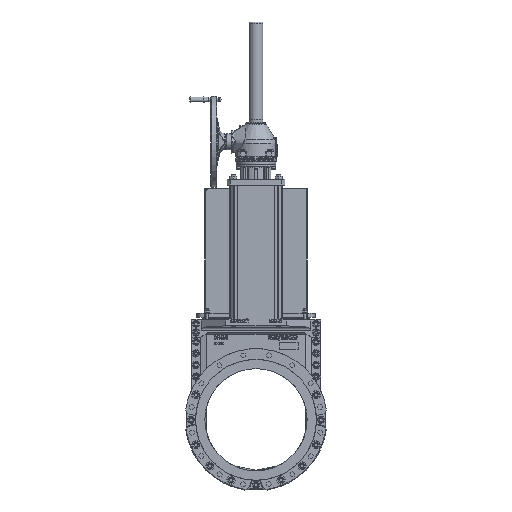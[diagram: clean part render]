
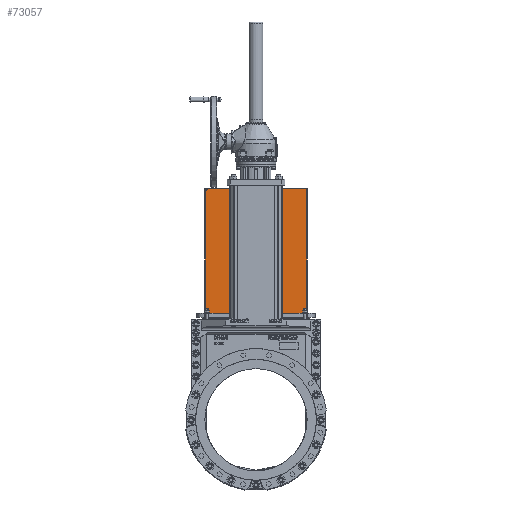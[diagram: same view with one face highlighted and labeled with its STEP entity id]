
A CAD part, left-side view. The second image highlights one B-rep face of the part: STEP entity #73057.
In plain terms, the highlighted planar face has unit normal (-1, 0, 0).
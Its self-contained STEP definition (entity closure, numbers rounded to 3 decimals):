
#4184=FACE_BOUND('',#12527,.T.);
#4185=FACE_BOUND('',#12528,.T.);
#5270=PLANE('',#78185);
#8231=FACE_OUTER_BOUND('',#12526,.T.);
#12526=EDGE_LOOP('',(#54594,#54595,#54596,#54597,#54598,#54599));
#12527=EDGE_LOOP('',(#54600,#54601,#54602,#54603,#54604,#54605,#54606,#54607,
#54608,#54609));
#12528=EDGE_LOOP('',(#54610));
#17314=LINE('',#217858,#22757);
#17318=LINE('',#217866,#22761);
#17322=LINE('',#217874,#22765);
#17326=LINE('',#217882,#22769);
#17329=LINE('',#217895,#22772);
#17332=LINE('',#217900,#22775);
#17335=LINE('',#217912,#22778);
#17336=LINE('',#217914,#22779);
#17337=LINE('',#217916,#22780);
#17338=LINE('',#217918,#22781);
#17339=LINE('',#217920,#22782);
#17340=LINE('',#217921,#22783);
#22757=VECTOR('',#88682,10.);
#22761=VECTOR('',#88688,10.);
#22765=VECTOR('',#88692,10.);
#22769=VECTOR('',#88696,10.);
#22772=VECTOR('',#88713,10.);
#22775=VECTOR('',#88718,10.);
#22778=VECTOR('',#88731,10.);
#22779=VECTOR('',#88732,10.);
#22780=VECTOR('',#88733,10.);
#22781=VECTOR('',#88734,10.);
#22782=VECTOR('',#88735,10.);
#22783=VECTOR('',#88736,10.);
#27692=CIRCLE('',#78183,14.5);
#27693=CIRCLE('',#78184,14.5);
#27694=CIRCLE('',#78186,14.5);
#27695=CIRCLE('',#78187,14.5);
#27696=CIRCLE('',#78188,4.5);
#31855=VERTEX_POINT('',#217856);
#31856=VERTEX_POINT('',#217857);
#31859=VERTEX_POINT('',#217865);
#31862=VERTEX_POINT('',#217871);
#31863=VERTEX_POINT('',#217873);
#31866=VERTEX_POINT('',#217879);
#31867=VERTEX_POINT('',#217881);
#31870=VERTEX_POINT('',#217894);
#31873=VERTEX_POINT('',#217905);
#31874=VERTEX_POINT('',#217910);
#31875=VERTEX_POINT('',#217911);
#31876=VERTEX_POINT('',#217913);
#31877=VERTEX_POINT('',#217915);
#31878=VERTEX_POINT('',#217917);
#31879=VERTEX_POINT('',#217919);
#31880=VERTEX_POINT('',#217922);
#31881=VERTEX_POINT('',#217925);
#40231=EDGE_CURVE('',#31855,#31856,#17314,.T.);
#40235=EDGE_CURVE('',#31859,#31855,#17318,.T.);
#40239=EDGE_CURVE('',#31863,#31862,#17322,.T.);
#40243=EDGE_CURVE('',#31867,#31866,#17326,.T.);
#40249=EDGE_CURVE('',#31856,#31870,#17329,.T.);
#40252=EDGE_CURVE('',#31870,#31867,#17332,.T.);
#40256=EDGE_CURVE('',#31866,#31873,#27692,.T.);
#40257=EDGE_CURVE('',#31873,#31863,#27693,.T.);
#40258=EDGE_CURVE('',#31874,#31875,#17335,.T.);
#40259=EDGE_CURVE('',#31876,#31875,#17336,.T.);
#40260=EDGE_CURVE('',#31876,#31877,#17337,.T.);
#40261=EDGE_CURVE('',#31877,#31878,#17338,.T.);
#40262=EDGE_CURVE('',#31878,#31879,#17339,.T.);
#40263=EDGE_CURVE('',#31874,#31879,#17340,.T.);
#40264=EDGE_CURVE('',#31862,#31880,#27694,.T.);
#40265=EDGE_CURVE('',#31880,#31859,#27695,.T.);
#40266=EDGE_CURVE('',#31881,#31881,#27696,.T.);
#54594=ORIENTED_EDGE('',*,*,#40258,.T.);
#54595=ORIENTED_EDGE('',*,*,#40259,.F.);
#54596=ORIENTED_EDGE('',*,*,#40260,.T.);
#54597=ORIENTED_EDGE('',*,*,#40261,.T.);
#54598=ORIENTED_EDGE('',*,*,#40262,.T.);
#54599=ORIENTED_EDGE('',*,*,#40263,.F.);
#54600=ORIENTED_EDGE('',*,*,#40235,.T.);
#54601=ORIENTED_EDGE('',*,*,#40231,.T.);
#54602=ORIENTED_EDGE('',*,*,#40249,.T.);
#54603=ORIENTED_EDGE('',*,*,#40252,.T.);
#54604=ORIENTED_EDGE('',*,*,#40243,.T.);
#54605=ORIENTED_EDGE('',*,*,#40256,.T.);
#54606=ORIENTED_EDGE('',*,*,#40257,.T.);
#54607=ORIENTED_EDGE('',*,*,#40239,.T.);
#54608=ORIENTED_EDGE('',*,*,#40264,.T.);
#54609=ORIENTED_EDGE('',*,*,#40265,.T.);
#54610=ORIENTED_EDGE('',*,*,#40266,.T.);
#73057=ADVANCED_FACE('',(#8231,#4184,#4185),#5270,.F.);
#78183=AXIS2_PLACEMENT_3D('',#217907,#88725,#88726);
#78184=AXIS2_PLACEMENT_3D('',#217908,#88727,#88728);
#78185=AXIS2_PLACEMENT_3D('',#217909,#88729,#88730);
#78186=AXIS2_PLACEMENT_3D('',#217923,#88737,#88738);
#78187=AXIS2_PLACEMENT_3D('',#217924,#88739,#88740);
#78188=AXIS2_PLACEMENT_3D('',#217926,#88741,#88742);
#88682=DIRECTION('',(0.,0.,1.));
#88688=DIRECTION('',(0.,1.,0.));
#88692=DIRECTION('',(0.,1.,0.));
#88696=DIRECTION('',(0.,1.,0.));
#88713=DIRECTION('',(0.,-1.,0.));
#88718=DIRECTION('',(0.,0.,-1.));
#88725=DIRECTION('center_axis',(1.,0.,0.));
#88726=DIRECTION('ref_axis',(0.,-1.,0.));
#88727=DIRECTION('center_axis',(1.,0.,0.));
#88728=DIRECTION('ref_axis',(0.,-1.,0.));
#88729=DIRECTION('center_axis',(1.,0.,0.));
#88730=DIRECTION('ref_axis',(0.,1.,0.));
#88731=DIRECTION('',(0.,-1.,0.));
#88732=DIRECTION('',(0.,0.,-1.));
#88733=DIRECTION('',(0.,1.,0.));
#88734=DIRECTION('',(0.,1.,0.));
#88735=DIRECTION('',(0.,1.,0.));
#88736=DIRECTION('',(0.,0.,1.));
#88737=DIRECTION('center_axis',(1.,0.,0.));
#88738=DIRECTION('ref_axis',(0.,-1.,0.));
#88739=DIRECTION('center_axis',(1.,0.,0.));
#88740=DIRECTION('ref_axis',(0.,-1.,0.));
#88741=DIRECTION('center_axis',(1.,0.,0.));
#88742=DIRECTION('ref_axis',(0.,1.,0.));
#217856=CARTESIAN_POINT('',(-7.5,80.,946.5));
#217857=CARTESIAN_POINT('',(-7.5,80.,1015.5));
#217858=CARTESIAN_POINT('',(-7.5,80.,815.271));
#217865=CARTESIAN_POINT('',(-7.5,59.186,946.5));
#217866=CARTESIAN_POINT('',(-7.5,-40.,946.5));
#217871=CARTESIAN_POINT('',(-7.5,30.814,946.5));
#217873=CARTESIAN_POINT('',(-7.5,-30.814,946.5));
#217874=CARTESIAN_POINT('',(-7.5,-40.,946.5));
#217879=CARTESIAN_POINT('',(-7.5,-59.186,946.5));
#217881=CARTESIAN_POINT('',(-7.5,-80.,946.5));
#217882=CARTESIAN_POINT('',(-7.5,-40.,946.5));
#217894=CARTESIAN_POINT('',(-7.5,-80.,1015.5));
#217895=CARTESIAN_POINT('',(-7.5,40.,1015.5));
#217900=CARTESIAN_POINT('',(-7.5,-80.,849.771));
#217905=CARTESIAN_POINT('',(-7.5,-30.5,943.5));
#217907=CARTESIAN_POINT('Origin',(-7.5,-45.,943.5));
#217908=CARTESIAN_POINT('Origin',(-7.5,-45.,943.5));
#217909=CARTESIAN_POINT('Origin',(-7.5,0.,684.041));
#217910=CARTESIAN_POINT('',(-7.5,223.6,433.));
#217911=CARTESIAN_POINT('',(-7.5,-223.6,433.));
#217912=CARTESIAN_POINT('',(-7.5,0.,433.));
#217913=CARTESIAN_POINT('',(-7.5,-223.6,1018.5));
#217914=CARTESIAN_POINT('',(-7.5,-223.6,851.271));
#217915=CARTESIAN_POINT('',(-7.5,-18.5,1018.5));
#217916=CARTESIAN_POINT('',(-7.5,-227.5,1018.5));
#217917=CARTESIAN_POINT('',(-7.5,18.5,1018.5));
#217918=CARTESIAN_POINT('',(-7.5,-227.5,1018.5));
#217919=CARTESIAN_POINT('',(-7.5,223.6,1018.5));
#217920=CARTESIAN_POINT('',(-7.5,-227.5,1018.5));
#217921=CARTESIAN_POINT('',(-7.5,223.6,540.242));
#217922=CARTESIAN_POINT('',(-7.5,59.5,943.5));
#217923=CARTESIAN_POINT('Origin',(-7.5,45.,943.5));
#217924=CARTESIAN_POINT('Origin',(-7.5,45.,943.5));
#217925=CARTESIAN_POINT('',(-7.5,214.1,1012.5));
#217926=CARTESIAN_POINT('Origin',(-7.5,218.6,1012.5));
